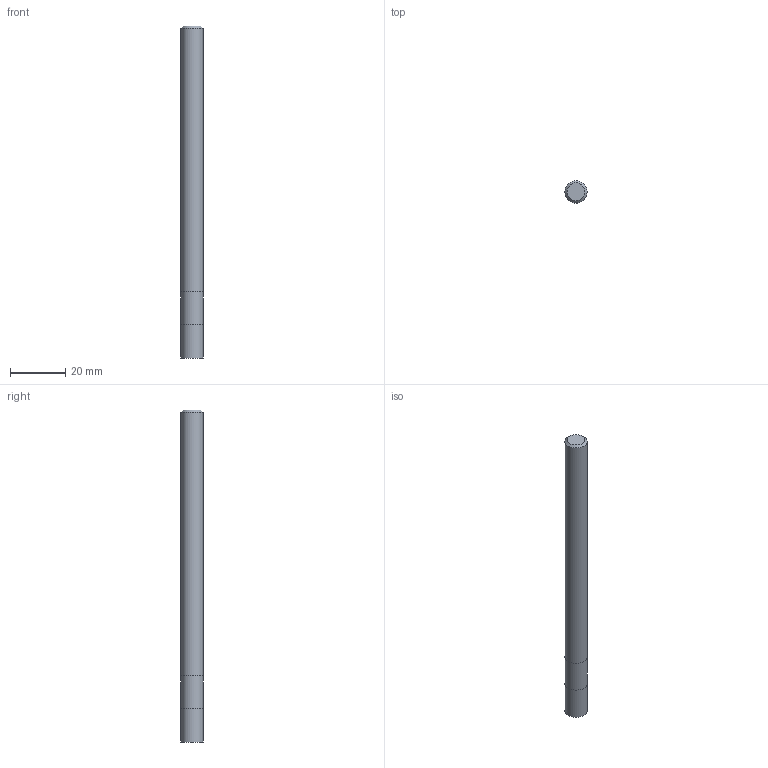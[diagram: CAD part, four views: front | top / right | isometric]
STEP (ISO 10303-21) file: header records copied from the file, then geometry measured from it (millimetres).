
FILE_DESCRIPTION((''),'2;1');
FILE_NAME('C:\Users\nsx150\AppData\Local\Temp\Mastercam 2021\EUJSUNXURU\TEMP.step','2021-04-22T10:29:21',(''),(''),'STEP Write','Mastercam 2021 ... CNC Software, Inc.','');
FILE_SCHEMA(('AUTOMOTIVE_DESIGN'));
Length unit declared in the file: millimetre
Products named in the file (1): None
Bounding box: 8 x 8 x 120 mm (x, y, z)
Volume: 6024.4 mm3; surface area: 3204.4 mm2
Topology: 2 solids, 2 shells, 8 faces, 10 edges, 6 vertices
Faces by surface type: plane 4, cylinder 3, cone 1
Full cylindrical faces by diameter (mm): 8 x3
Entity records: 190 total; most frequent: DIRECTION 32, CARTESIAN_POINT 22, AXIS2_PLACEMENT_3D 16, ORIENTED_EDGE 12, EDGE_LOOP 12, STYLED_ITEM 11, ADVANCED_FACE 8, FACE_BOUND 7
